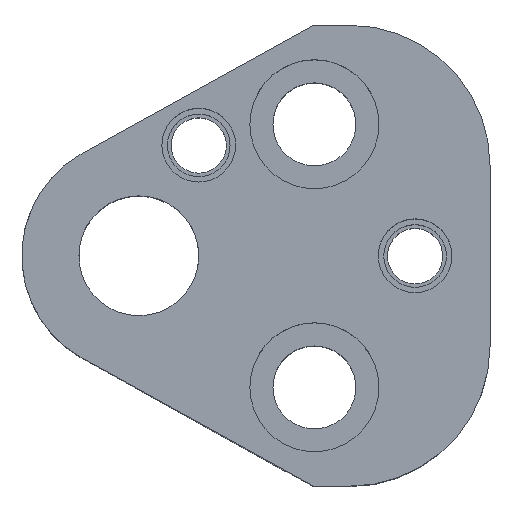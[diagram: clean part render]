
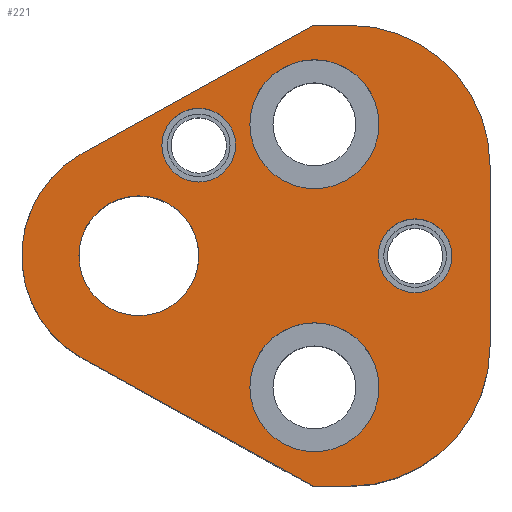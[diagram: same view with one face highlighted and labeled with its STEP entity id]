
A CAD part, top view. The second image highlights one B-rep face of the part: STEP entity #221.
In plain terms, the highlighted planar face has unit normal (0, 0, 1).
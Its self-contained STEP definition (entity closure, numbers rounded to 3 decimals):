
#104=FACE_BOUND('',#319,.T.);
#105=FACE_BOUND('',#320,.T.);
#106=FACE_BOUND('',#321,.T.);
#107=FACE_BOUND('',#322,.T.);
#108=FACE_BOUND('',#323,.T.);
#109=FACE_BOUND('',#324,.T.);
#149=CIRCLE('',#871,15.2);
#151=CIRCLE('',#875,15.2);
#161=CIRCLE('',#892,7.);
#163=CIRCLE('',#895,7.);
#165=CIRCLE('',#899,7.);
#167=CIRCLE('',#902,7.);
#169=CIRCLE('',#906,12.7);
#170=CIRCLE('',#907,4.);
#171=CIRCLE('',#908,4.);
#172=CIRCLE('',#909,4.);
#173=CIRCLE('',#910,4.);
#174=CIRCLE('',#911,6.5);
#175=CIRCLE('',#912,6.5);
#221=ADVANCED_FACE('',(#104,#105,#106,#107,#108,#109),#255,.T.);
#255=PLANE('',#913);
#319=EDGE_LOOP('',(#424,#425,#426,#427,#428,#429,#430,#431));
#320=EDGE_LOOP('',(#432,#433));
#321=EDGE_LOOP('',(#434,#435));
#322=EDGE_LOOP('',(#436,#437));
#323=EDGE_LOOP('',(#438,#439));
#324=EDGE_LOOP('',(#440,#441));
#424=ORIENTED_EDGE('',*,*,#696,.T.);
#425=ORIENTED_EDGE('',*,*,#654,.T.);
#426=ORIENTED_EDGE('',*,*,#658,.T.);
#427=ORIENTED_EDGE('',*,*,#661,.T.);
#428=ORIENTED_EDGE('',*,*,#664,.T.);
#429=ORIENTED_EDGE('',*,*,#667,.T.);
#430=ORIENTED_EDGE('',*,*,#670,.T.);
#431=ORIENTED_EDGE('',*,*,#697,.T.);
#432=ORIENTED_EDGE('',*,*,#698,.F.);
#433=ORIENTED_EDGE('',*,*,#699,.F.);
#434=ORIENTED_EDGE('',*,*,#700,.F.);
#435=ORIENTED_EDGE('',*,*,#701,.F.);
#436=ORIENTED_EDGE('',*,*,#694,.F.);
#437=ORIENTED_EDGE('',*,*,#690,.F.);
#438=ORIENTED_EDGE('',*,*,#688,.F.);
#439=ORIENTED_EDGE('',*,*,#684,.F.);
#440=ORIENTED_EDGE('',*,*,#702,.T.);
#441=ORIENTED_EDGE('',*,*,#703,.T.);
#581=VERTEX_POINT('',#1228);
#582=VERTEX_POINT('',#1230);
#585=VERTEX_POINT('',#1237);
#587=VERTEX_POINT('',#1243);
#589=VERTEX_POINT('',#1249);
#591=VERTEX_POINT('',#1255);
#593=VERTEX_POINT('',#1261);
#602=VERTEX_POINT('',#1290);
#603=VERTEX_POINT('',#1291);
#606=VERTEX_POINT('',#1303);
#607=VERTEX_POINT('',#1304);
#610=VERTEX_POINT('',#1316);
#611=VERTEX_POINT('',#1319);
#612=VERTEX_POINT('',#1320);
#613=VERTEX_POINT('',#1323);
#614=VERTEX_POINT('',#1324);
#615=VERTEX_POINT('',#1327);
#616=VERTEX_POINT('',#1328);
#654=EDGE_CURVE('',#582,#581,#764,.T.);
#658=EDGE_CURVE('',#581,#585,#149,.T.);
#661=EDGE_CURVE('',#585,#587,#769,.T.);
#664=EDGE_CURVE('',#587,#589,#151,.T.);
#667=EDGE_CURVE('',#589,#591,#773,.T.);
#670=EDGE_CURVE('',#591,#593,#776,.T.);
#684=EDGE_CURVE('',#602,#603,#161,.T.);
#688=EDGE_CURVE('',#603,#602,#163,.T.);
#690=EDGE_CURVE('',#606,#607,#165,.T.);
#694=EDGE_CURVE('',#607,#606,#167,.T.);
#696=EDGE_CURVE('',#610,#582,#786,.T.);
#697=EDGE_CURVE('',#593,#610,#169,.T.);
#698=EDGE_CURVE('',#611,#612,#170,.T.);
#699=EDGE_CURVE('',#612,#611,#171,.T.);
#700=EDGE_CURVE('',#613,#614,#172,.T.);
#701=EDGE_CURVE('',#614,#613,#173,.T.);
#702=EDGE_CURVE('',#615,#616,#174,.T.);
#703=EDGE_CURVE('',#616,#615,#175,.T.);
#764=LINE('',#1229,#817);
#769=LINE('',#1244,#822);
#773=LINE('',#1256,#826);
#776=LINE('',#1262,#829);
#786=LINE('',#1315,#839);
#817=VECTOR('',#973,1.);
#822=VECTOR('',#986,1.);
#826=VECTOR('',#998,1.);
#829=VECTOR('',#1003,1.);
#839=VECTOR('',#1067,1.);
#871=AXIS2_PLACEMENT_3D('',#1238,#979,#980);
#875=AXIS2_PLACEMENT_3D('',#1250,#991,#992);
#892=AXIS2_PLACEMENT_3D('',#1289,#1035,#1036);
#895=AXIS2_PLACEMENT_3D('',#1298,#1043,#1044);
#899=AXIS2_PLACEMENT_3D('',#1302,#1051,#1052);
#902=AXIS2_PLACEMENT_3D('',#1311,#1059,#1060);
#906=AXIS2_PLACEMENT_3D('',#1317,#1068,#1069);
#907=AXIS2_PLACEMENT_3D('',#1318,#1070,#1071);
#908=AXIS2_PLACEMENT_3D('',#1321,#1072,#1073);
#909=AXIS2_PLACEMENT_3D('',#1322,#1074,#1075);
#910=AXIS2_PLACEMENT_3D('',#1325,#1076,#1077);
#911=AXIS2_PLACEMENT_3D('',#1326,#1078,#1079);
#912=AXIS2_PLACEMENT_3D('',#1329,#1080,#1081);
#913=AXIS2_PLACEMENT_3D('',#1330,#1082,#1083);
#973=DIRECTION('',(1.,0.,0.));
#979=DIRECTION('',(0.,0.,1.));
#980=DIRECTION('',(-0.707,0.707,0.));
#986=DIRECTION('',(0.,1.,0.));
#991=DIRECTION('',(0.,0.,1.));
#992=DIRECTION('',(-0.707,-0.707,0.));
#998=DIRECTION('',(-1.,0.,0.));
#1003=DIRECTION('',(-0.875,-0.485,0.));
#1035=DIRECTION('',(0.,0.,1.));
#1036=DIRECTION('',(-1.,0.,0.));
#1043=DIRECTION('',(0.,0.,1.));
#1044=DIRECTION('',(1.,0.,0.));
#1051=DIRECTION('',(0.,0.,1.));
#1052=DIRECTION('',(-1.,0.,0.));
#1059=DIRECTION('',(0.,0.,1.));
#1060=DIRECTION('',(1.,0.,0.));
#1067=DIRECTION('',(0.875,-0.485,0.));
#1068=DIRECTION('',(0.,0.,1.));
#1069=DIRECTION('',(1.,0.,0.));
#1070=DIRECTION('',(0.,0.,1.));
#1071=DIRECTION('',(1.,0.,0.));
#1072=DIRECTION('',(0.,0.,1.));
#1073=DIRECTION('',(-1.,0.,0.));
#1074=DIRECTION('',(0.,0.,1.));
#1075=DIRECTION('',(1.,0.,0.));
#1076=DIRECTION('',(0.,0.,1.));
#1077=DIRECTION('',(-1.,0.,0.));
#1078=DIRECTION('',(0.,0.,-1.));
#1079=DIRECTION('',(-1.,0.,0.));
#1080=DIRECTION('',(0.,0.,-1.));
#1081=DIRECTION('',(1.,0.,0.));
#1082=DIRECTION('',(0.,0.,1.));
#1083=DIRECTION('',(-0.875,0.485,0.));
#1228=CARTESIAN_POINT('',(22.9,-25.,32.));
#1229=CARTESIAN_POINT('',(18.905,-25.,32.));
#1230=CARTESIAN_POINT('',(18.905,-25.,32.));
#1237=CARTESIAN_POINT('',(38.1,-9.8,32.));
#1238=CARTESIAN_POINT('',(22.9,-9.8,32.));
#1243=CARTESIAN_POINT('',(38.1,9.8,32.));
#1244=CARTESIAN_POINT('',(38.1,9.8,32.));
#1249=CARTESIAN_POINT('',(22.9,25.,32.));
#1250=CARTESIAN_POINT('',(22.9,9.8,32.));
#1255=CARTESIAN_POINT('',(18.905,25.,32.));
#1256=CARTESIAN_POINT('',(18.905,25.,32.));
#1261=CARTESIAN_POINT('',(-6.157,11.108,32.));
#1262=CARTESIAN_POINT('',(18.905,25.,32.));
#1289=CARTESIAN_POINT('',(19.05,-14.27,32.));
#1290=CARTESIAN_POINT('',(19.05,-21.27,32.));
#1291=CARTESIAN_POINT('',(19.05,-7.27,32.));
#1298=CARTESIAN_POINT('',(19.05,-14.27,32.));
#1302=CARTESIAN_POINT('',(19.05,14.27,32.));
#1303=CARTESIAN_POINT('',(19.05,7.27,32.));
#1304=CARTESIAN_POINT('',(19.05,21.27,32.));
#1311=CARTESIAN_POINT('',(19.05,14.27,32.));
#1315=CARTESIAN_POINT('',(18.905,-25.,32.));
#1316=CARTESIAN_POINT('',(-6.157,-11.108,32.));
#1317=CARTESIAN_POINT('',(0.,0.,32.));
#1318=CARTESIAN_POINT('',(29.97,0.,32.));
#1319=CARTESIAN_POINT('',(29.97,4.,32.));
#1320=CARTESIAN_POINT('',(29.97,-4.,32.));
#1321=CARTESIAN_POINT('',(29.97,0.,32.));
#1322=CARTESIAN_POINT('',(6.5,12.,32.));
#1323=CARTESIAN_POINT('',(6.5,16.,32.));
#1324=CARTESIAN_POINT('',(6.5,8.,32.));
#1325=CARTESIAN_POINT('',(6.5,12.,32.));
#1326=CARTESIAN_POINT('',(0.,0.,32.));
#1327=CARTESIAN_POINT('',(0.,6.5,32.));
#1328=CARTESIAN_POINT('',(0.,-6.5,32.));
#1329=CARTESIAN_POINT('',(0.,0.,32.));
#1330=CARTESIAN_POINT('',(-6.157,-11.108,32.));
